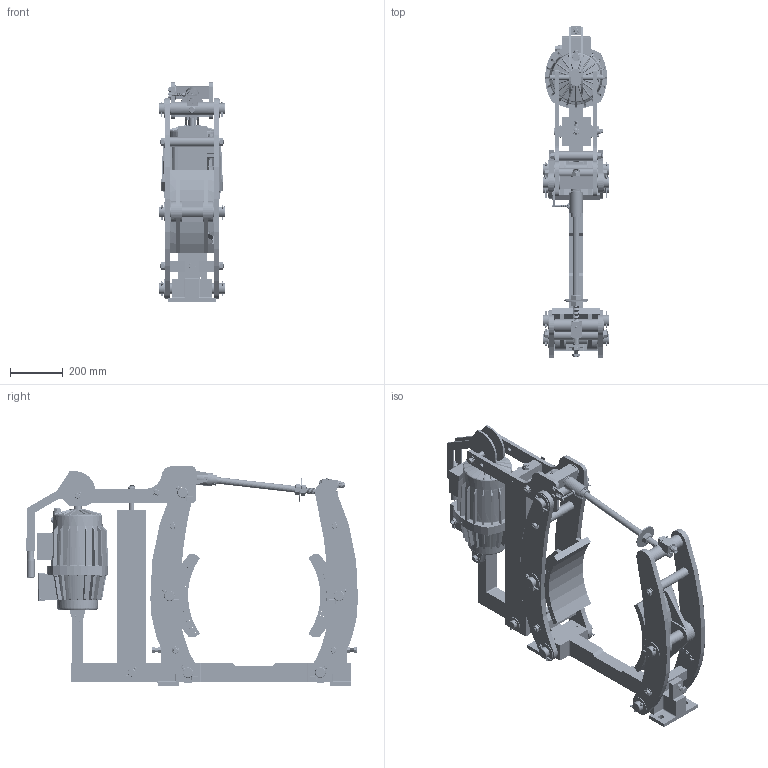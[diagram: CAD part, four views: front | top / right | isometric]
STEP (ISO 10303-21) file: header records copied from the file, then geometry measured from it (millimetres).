
FILE_DESCRIPTION((''),'2;1');
FILE_NAME('4459_504_552_E00001','2018-01-30T',('VORO'),(''),'CREO PARAMETRIC BY PTC INC, 2017170','CREO PARAMETRIC BY PTC INC, 2017170','');
FILE_SCHEMA(('CONFIG_CONTROL_DESIGN'));
Products named in the file (1): 4459_504_552_E00001
Bounding box: 250.49 x 1253.46 x 829.5 mm (x, y, z)
Surface area: 4408719 mm2 (no closed solid volume)
Topology: 0 solids, 3279 shells, 4063 faces, 25019 edges, 23416 vertices
Faces by surface type: plane 1547, cylinder 1232, cone 1047, torus 217, bspline 18, sphere 2
Entity records: 438822 total; most frequent: CARTESIAN_POINT 146248, PRESENTATION_STYLE_ASSIGNMENT 32330, STYLED_ITEM 28267, DIRECTION 27763, ORIENTED_EDGE 26573, CURVE_STYLE 24988, EDGE_CURVE 24988, VERTEX_POINT 23414
